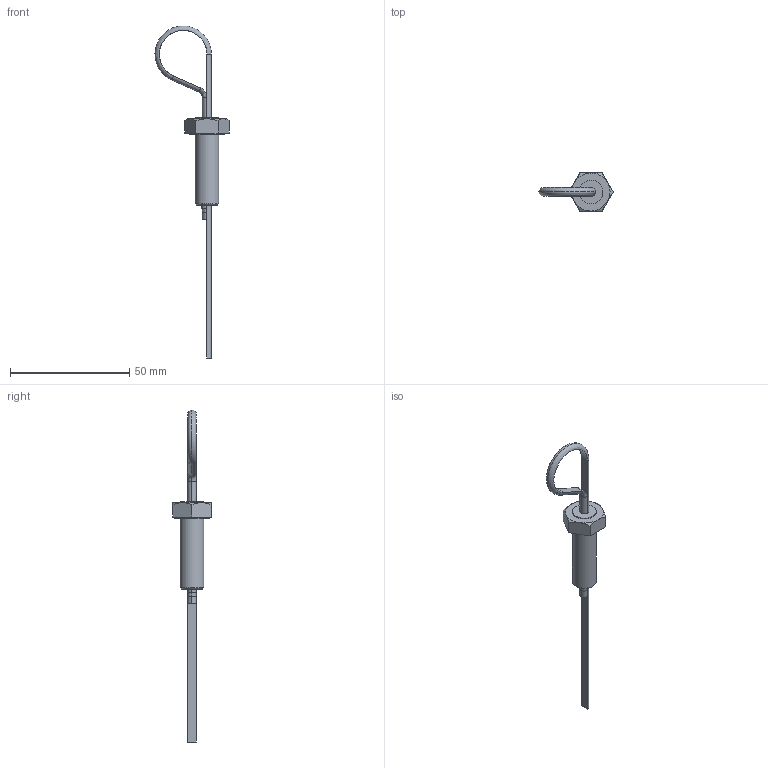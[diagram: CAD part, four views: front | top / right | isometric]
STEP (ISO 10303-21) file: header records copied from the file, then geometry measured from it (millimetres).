
FILE_DESCRIPTION((''),'2;1');
FILE_NAME('U:\Users\a.heinl\12172500.stp','2013-05-23T09:36:01',( 'User'),('SDRC'),'I-DEAS Master Series 9','UNIX','Yes');
FILE_SCHEMA(('AUTOMOTIVE_DESIGN { 1 0 10303 214 1 1 1 1 }'));
Length unit declared in the file: millimetre
Products named in the file (1): 12172500(319191)
Bounding box: 31.1 x 16.02 x 139.48 mm (x, y, z)
Volume: 4699.2 mm3; surface area: 3318.9 mm2
Topology: 1 solids, 1 shells, 47 faces, 113 edges, 79 vertices
Faces by surface type: bspline 47
Entity records: 1557 total; most frequent: CARTESIAN_POINT 873, ORIENTED_EDGE 208, EDGE_CURVE 104, VERTEX_POINT 64, EDGE_LOOP 54, FACE_OUTER_BOUND 47, ADVANCED_FACE 47, QUASI_UNIFORM_CURVE 29
